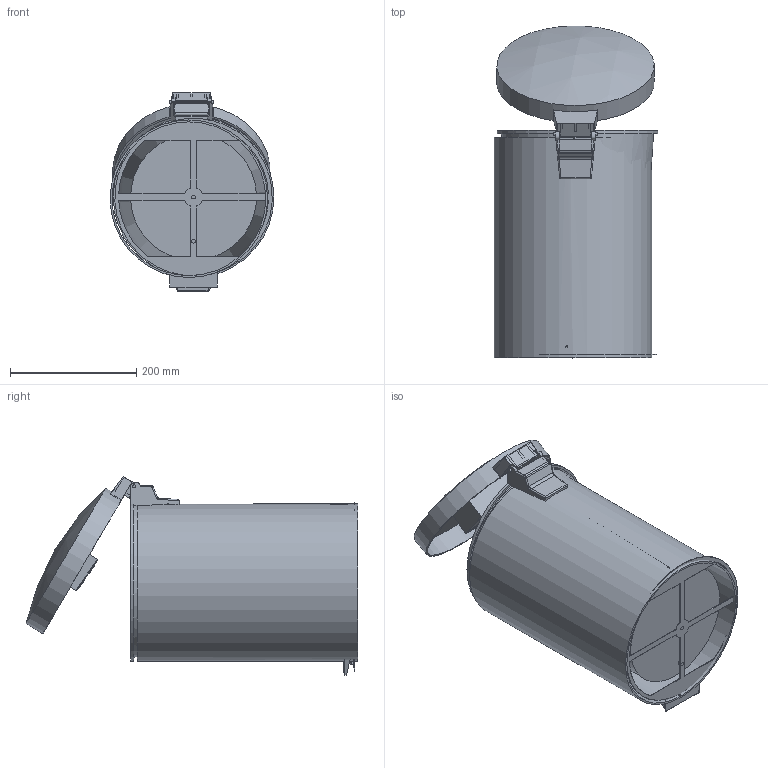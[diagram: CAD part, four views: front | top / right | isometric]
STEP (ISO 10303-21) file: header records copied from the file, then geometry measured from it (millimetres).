
FILE_DESCRIPTION(/* description */ (''),/* implementation_level */ '2;1');
FILE_NAME(/* name */ 'E:/planetbin.step',/* time_stamp */ '2018-06-28T11:35:58+05:00',/* author */ ('farissalmannbr'),/* organization */ (''),/* preprocessor_version */ 'ST-DEVELOPER v17',/* originating_system */ 'Autodesk Translation Framework v7.1.0.215',/* authorisation */ '');
FILE_SCHEMA (('AUTOMOTIVE_DESIGN { 1 0 10303 214 3 1 1 }'));
Products named in the file (60): main; PCB Component; Board; 10uf; Reset; TERM-1X02-FABLAB; ESP8266-ESP12E; 0k; SLIDE-SWITCH; FTDI-SMD-HEADER; RED; SOT223; ESP8266-12E; ESP8266-12E_1; 1; 2; 3; 4; 5; 6; 7; 8; 9; 10; 11; 12; 13; 14; 15; 16; 17; 18; 19; 20; 21; 22; 23; 24; 25; HEADERFEM2P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
Assembly tree (70 placements, depth 4):
  main
    PCB Component
      Board
      10uf  x3
      Reset  x2
      TERM-1X02-FABLAB
      ESP8266-ESP12E
      0k  x6
      SLIDE-SWITCH
      FTDI-SMD-HEADER
      RED
      SOT223
    ESP8266-12E
      ESP8266-12E_1
        1
        2
        3
        4
        5
        6
        7
        8
        9
        10
        11
        12
        13
        14
        15
        16
        17
        18
        19
        20
        21
        22
        23
        24
        25
    HEADERFEM2P
      HEADERFEMB  x2
    HEADERFEM2P_1
      HEADERFEMB  x2
    RANGE_FINDER
    9V-battery
    9-Volt-Block Batteriehalter-Klipp v1
    TrashCan_Assembly
      TrashCan_Assembly_1
        Base
        corpo
        tampa
        Parte1
        Parte2
        Haste 1
        Haste 2
        Balde
        Pino eixo
        Pedal
        antiderrapante
    Component14
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Bounding box: 259.9 x 526.85 x 315.71 mm (x, y, z)
Volume: 2404005.2 mm3; surface area: 1385123.5 mm2
Topology: 66 solids, 66 shells, 2156 faces, 5657 edges, 4076 vertices
Faces by surface type: plane 1049, cylinder 679, cone 367, torus 35, bspline 21, sphere 5
Full cylindrical faces by diameter (mm): 0.381 x362, 0.6 x16, 0.85 x2, 1 x2, 1.016 x4, 1.2 x2, 1.587 x4, 2 x1, 2.54 x2, 3 x12, 3.65 x20, 4 x2, 4.064 x1, 5 x5, 5.715 x1, 5.842 x1, 6 x2, 6.35 x1, 7.874 x1, 12.827 x2, 15.875 x2, 17.237 x2, 241.985 x1, 244 x2, 250 x2, 255 x1
Entity records: 85057 total; most frequent: CARTESIAN_POINT 32586, ORIENTED_EDGE 10288, DIRECTION 9840, EDGE_CURVE 5144, VERTEX_POINT 3742, AXIS2_PLACEMENT_3D 3566, LINE 2708, VECTOR 2708
